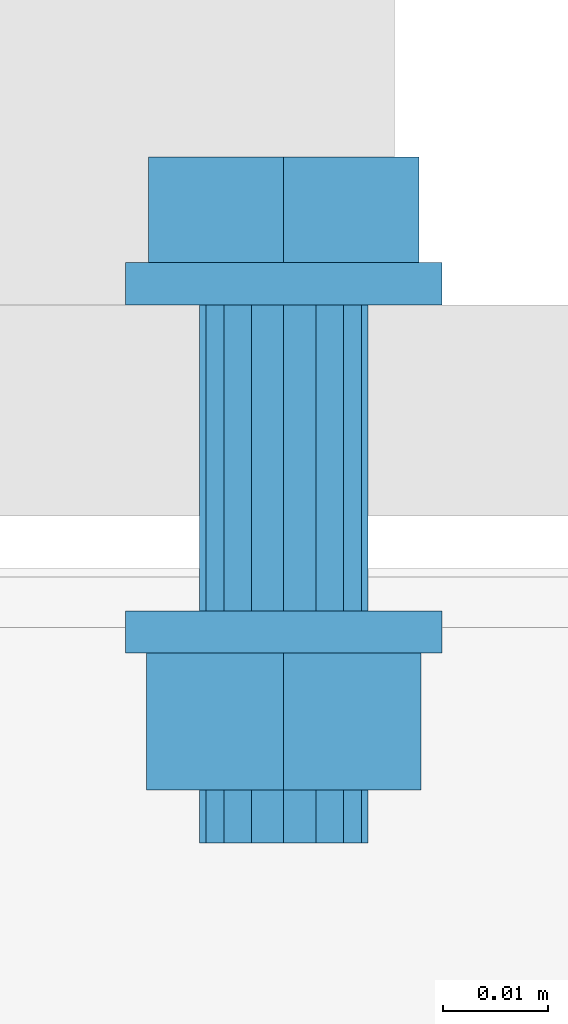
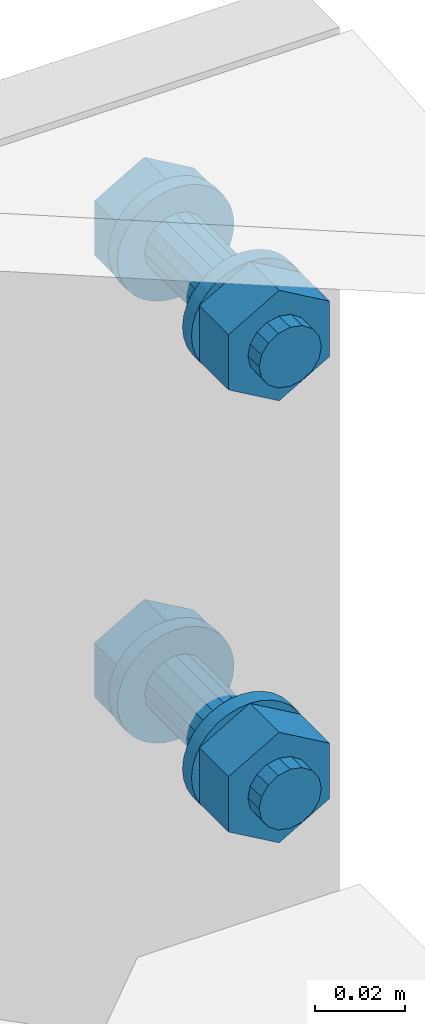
# One storey, part 7 of 21: 2 mechanical fasteners.
"""IFC4X3_ADD2 building model written with IfcOpenShell, lengths in millimetres."""

from ifc_helpers import new_model, entity, si_unit, converted_unit, derived_unit, direction, frame, origin, place, context, project, spatial, faceted_brep, element, save


model = new_model("IFC4X3_ADD2")

# Units and contexts
model_context = context("Model", 3, precision=0.01, world=origin(), true_north=direction((6.123233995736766e-17, 1.0)))
plan_context = context("Plan", 3, precision=0.01, world=origin(), true_north=direction((6.123233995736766e-17, 1.0)))
ifc_project = project(units=[si_unit("LENGTHUNIT", "METRE", prefix="MILLI"), converted_unit("PLANEANGLEUNIT", "DEGREE", entity("IfcPlaneAngleMeasure", 0.017453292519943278), si_unit("PLANEANGLEUNIT", "RADIAN"), dimensions=[0, 0, 0, 0, 0, 0, 0]), si_unit("AREAUNIT", "SQUARE_METRE"), si_unit("VOLUMEUNIT", "CUBIC_METRE"), derived_unit("THERMALTRANSMITTANCEUNIT", [(si_unit("MASSUNIT", "GRAM", prefix="KILO"), 1), (si_unit("THERMODYNAMICTEMPERATUREUNIT", "KELVIN"), -1), (si_unit("TIMEUNIT", "SECOND"), -3)]), derived_unit("USERDEFINED", [(si_unit("MASSUNIT", "GRAM", prefix="KILO"), 1), (si_unit("THERMODYNAMICTEMPERATUREUNIT", "KELVIN"), -1), (si_unit("TIMEUNIT", "SECOND"), -2)]), derived_unit("THERMALRESISTANCEUNIT", [(si_unit("MASSUNIT", "GRAM", prefix="KILO"), -1), (si_unit("TIMEUNIT", "SECOND"), 3), (si_unit("THERMODYNAMICTEMPERATUREUNIT", "KELVIN"), 1)]), si_unit("MASSUNIT", "GRAM", prefix="KILO"), derived_unit("MOMENTOFINERTIAUNIT", [(si_unit("LENGTHUNIT", "METRE"), 4)]), derived_unit("LINEARFORCEUNIT", [(si_unit("MASSUNIT", "GRAM", prefix="KILO"), 1), (si_unit("TIMEUNIT", "SECOND"), -2)]), derived_unit("WARPINGCONSTANTUNIT", [(si_unit("LENGTHUNIT", "METRE"), 6)]), si_unit("PRESSUREUNIT", "PASCAL"), derived_unit("MASSDENSITYUNIT", [(si_unit("MASSUNIT", "GRAM", prefix="KILO"), 1), (si_unit("LENGTHUNIT", "METRE"), -3)]), derived_unit("MODULUSOFELASTICITYUNIT", [(si_unit("MASSUNIT", "GRAM", prefix="KILO"), 1), (si_unit("TIMEUNIT", "SECOND"), -2), (si_unit("LENGTHUNIT", "METRE"), -1)]), derived_unit("THERMALEXPANSIONCOEFFICIENTUNIT", [(si_unit("THERMODYNAMICTEMPERATUREUNIT", "KELVIN"), -1)]), derived_unit("VAPORPERMEABILITYUNIT", [(si_unit("LENGTHUNIT", "METRE"), -1), (si_unit("TIMEUNIT", "SECOND"), 1)]), derived_unit("USERDEFINED", [(si_unit("MASSUNIT", "GRAM", prefix="KILO"), 1), (si_unit("TIMEUNIT", "SECOND"), -3), (si_unit("LENGTHUNIT", "METRE"), 3), (si_unit("ELECTRICCURRENTUNIT", "AMPERE"), -2)]), derived_unit("SPECIFICHEATCAPACITYUNIT", [(si_unit("THERMODYNAMICTEMPERATUREUNIT", "KELVIN"), -1), (si_unit("TIMEUNIT", "SECOND"), -2), (si_unit("LENGTHUNIT", "METRE"), 2)]), derived_unit("THERMALCONDUCTANCEUNIT", [(si_unit("MASSUNIT", "GRAM", prefix="KILO"), 1), (si_unit("THERMODYNAMICTEMPERATUREUNIT", "KELVIN"), -1), (si_unit("TIMEUNIT", "SECOND"), -3), (si_unit("LENGTHUNIT", "METRE"), 1)])], contexts=[model_context, plan_context])

# Site, building, storey
site_placement = place(None, origin())
site = spatial("IfcSite", under=ifc_project, at=site_placement, Name="Default", CompositionType="ELEMENT")
building_placement = place(site_placement, origin())
building = spatial("IfcBuilding", under=site, at=building_placement, Name="Complex structure", CompositionType="ELEMENT")
storey_placement = place(building_placement, frame((0.0, 0.0, 3000.0)))
storey = spatial("IfcBuildingStorey", under=building, at=storey_placement, Name="Level 01", CompositionType="ELEMENT", Elevation=3000.0)

# Mechanical fasteners
mechanical_fastener_1_placement = place(storey_placement, frame((0.0, 0.0, -3000.0)))
element("IfcMechanicalFastener", 1, at=mechanical_fastener_1_placement, inside=storey, ObjectType="Bolt#3", NominalDiameter=16.0, NominalLength=55.0, context=model_context, shape_type="Brep", body=[
    faceted_brep([(-13080.721550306, -1182.866703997, 3943.0), (-13080.721550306, -1186.866703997, 3943.0), (-13081.0097711, -1186.866703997, 3940.07364517), (-13081.0097711, -1182.866703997, 3940.07364517), (-13081.863357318, -1186.866703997, 3937.259748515), (-13081.863357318, -1182.866703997, 3937.259748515), (-13083.249506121, -1186.866703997, 3934.666446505), (-13083.249506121, -1182.866703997, 3934.666446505), (-13085.114948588, -1186.866703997, 3932.393398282), (-13085.114948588, -1182.866703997, 3932.393398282), (-13087.387996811, -1186.866703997, 3930.527955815), (-13087.387996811, -1182.866703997, 3930.527955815), (-13089.98129882, -1186.866703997, 3929.141807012), (-13089.98129882, -1182.866703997, 3929.141807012), (-13092.795195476, -1186.866703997, 3928.288220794), (-13092.795195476, -1182.866703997, 3928.288220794), (-13095.721550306, -1186.866703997, 3928.0), (-13095.721550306, -1182.866703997, 3928.0), (-13098.647905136, -1186.866703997, 3928.288220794), (-13098.647905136, -1182.866703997, 3928.288220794), (-13101.461801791, -1186.866703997, 3929.141807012), (-13101.461801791, -1182.866703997, 3929.141807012), (-13104.055103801, -1186.866703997, 3930.527955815), (-13104.055103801, -1182.866703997, 3930.527955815), (-13106.328152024, -1186.866703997, 3932.393398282), (-13106.328152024, -1182.866703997, 3932.393398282), (-13108.19359449, -1186.866703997, 3934.666446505), (-13108.19359449, -1182.866703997, 3934.666446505), (-13109.579743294, -1186.866703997, 3937.259748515), (-13109.579743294, -1182.866703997, 3937.259748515), (-13110.433329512, -1186.866703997, 3940.07364517), (-13110.433329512, -1182.866703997, 3940.07364517), (-13110.721550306, -1186.866703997, 3943.0), (-13110.721550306, -1182.866703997, 3943.0), (-13110.433329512, -1186.866703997, 3945.92635483), (-13110.433329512, -1182.866703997, 3945.92635483), (-13109.579743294, -1186.866703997, 3948.740251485), (-13109.579743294, -1182.866703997, 3948.740251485), (-13108.19359449, -1186.866703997, 3951.333553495), (-13108.19359449, -1182.866703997, 3951.333553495), (-13106.328152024, -1186.866703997, 3953.606601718), (-13106.328152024, -1182.866703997, 3953.606601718), (-13104.055103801, -1186.866703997, 3955.472044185), (-13104.055103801, -1182.866703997, 3955.472044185), (-13101.461801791, -1186.866703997, 3956.858192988), (-13101.461801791, -1182.866703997, 3956.858192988), (-13098.647905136, -1186.866703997, 3957.711779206), (-13098.647905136, -1182.866703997, 3957.711779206), (-13095.721550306, -1186.866703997, 3958.0), (-13095.721550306, -1182.866703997, 3958.0), (-13092.795195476, -1186.866703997, 3957.711779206), (-13092.795195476, -1182.866703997, 3957.711779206), (-13089.98129882, -1186.866703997, 3956.858192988), (-13089.98129882, -1182.866703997, 3956.858192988), (-13087.387996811, -1186.866703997, 3955.472044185), (-13087.387996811, -1182.866703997, 3955.472044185), (-13085.114948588, -1186.866703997, 3953.606601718), (-13085.114948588, -1182.866703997, 3953.606601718), (-13083.249506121, -1186.866703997, 3951.333553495), (-13083.249506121, -1182.866703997, 3951.333553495), (-13081.863357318, -1186.866703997, 3948.740251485), (-13081.863357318, -1182.866703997, 3948.740251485), (-13081.0097711, -1186.866703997, 3945.92635483), (-13081.0097711, -1182.866703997, 3945.92635483)], [[[0, 1, 2, 3]], [[3, 2, 4, 5]], [[5, 4, 6, 7]], [[7, 6, 8, 9]], [[9, 8, 10, 11]], [[11, 10, 12, 13]], [[13, 12, 14, 15]], [[15, 14, 16, 17]], [[17, 16, 18, 19]], [[19, 18, 20, 21]], [[21, 20, 22, 23]], [[23, 22, 24, 25]], [[25, 24, 26, 27]], [[27, 26, 28, 29]], [[29, 28, 30, 31]], [[31, 30, 32, 33]], [[33, 32, 34, 35]], [[35, 34, 36, 37]], [[37, 36, 38, 39]], [[39, 38, 40, 41]], [[41, 40, 42, 43]], [[43, 42, 44, 45]], [[45, 44, 46, 47]], [[47, 46, 48, 49]], [[49, 48, 50, 51]], [[51, 50, 52, 53]], [[53, 52, 54, 55]], [[55, 54, 56, 57]], [[57, 56, 58, 59]], [[59, 58, 60, 61]], [[61, 60, 62, 63]], [[63, 62, 1, 0]], [[0, 3, 5, 7, 9, 11, 13, 15, 17, 19, 21, 23, 25, 27, 29, 31, 33, 35, 37, 39, 41, 43, 45, 47, 49, 51, 53, 55, 57, 59, 61, 63]], [[1, 62, 60, 58, 56, 54, 52, 50, 48, 46, 44, 42, 40, 38, 36, 34, 32, 30, 28, 26, 24, 22, 20, 18, 16, 14, 12, 10, 8, 6, 4, 2]]]),
    faceted_brep([(-13108.521405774, -1182.866703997, 3935.61), (-13108.521405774, -1172.866703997, 3935.61), (-13095.721550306, -1172.866703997, 3928.22), (-13095.721550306, -1182.866703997, 3928.22), (-13082.921694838, -1172.866703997, 3935.61), (-13082.921694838, -1182.866703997, 3935.61), (-13082.921694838, -1172.866703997, 3950.39), (-13082.921694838, -1182.866703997, 3950.39), (-13095.721550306, -1172.866703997, 3957.78), (-13095.721550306, -1182.866703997, 3957.78), (-13108.521405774, -1172.866703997, 3950.39), (-13108.521405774, -1182.866703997, 3950.39)], [[[0, 1, 2, 3]], [[3, 2, 4, 5]], [[5, 4, 6, 7]], [[7, 6, 8, 9]], [[9, 8, 10, 11]], [[11, 10, 1, 0]], [[4, 2, 1, 10, 8, 6]], [[0, 3, 5, 7, 9, 11]]]),
    faceted_brep([(-13087.721550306, -1186.866703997, 3943.0), (-13087.721550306, -1215.866703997, 3943.0), (-13088.330514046, -1215.866703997, 3939.938532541), (-13088.330514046, -1186.866703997, 3939.938532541), (-13090.064696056, -1215.866703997, 3937.343145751), (-13090.064696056, -1186.866703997, 3937.343145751), (-13092.660082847, -1215.866703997, 3935.60896374), (-13092.660082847, -1186.866703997, 3935.60896374), (-13095.721550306, -1215.866703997, 3935.0), (-13095.721550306, -1186.866703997, 3935.0), (-13098.783017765, -1215.866703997, 3935.60896374), (-13098.783017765, -1186.866703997, 3935.60896374), (-13101.378404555, -1215.866703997, 3937.343145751), (-13101.378404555, -1186.866703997, 3937.343145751), (-13103.112586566, -1215.866703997, 3939.938532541), (-13103.112586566, -1186.866703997, 3939.938532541), (-13103.721550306, -1215.866703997, 3943.0), (-13103.721550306, -1186.866703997, 3943.0), (-13103.112586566, -1215.866703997, 3946.061467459), (-13103.112586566, -1186.866703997, 3946.061467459), (-13101.378404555, -1215.866703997, 3948.656854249), (-13101.378404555, -1186.866703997, 3948.656854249), (-13098.783017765, -1215.866703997, 3950.39103626), (-13098.783017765, -1186.866703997, 3950.39103626), (-13095.721550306, -1215.866703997, 3951.0), (-13095.721550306, -1186.866703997, 3951.0), (-13092.660082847, -1215.866703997, 3950.39103626), (-13092.660082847, -1186.866703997, 3950.39103626), (-13090.064696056, -1215.866703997, 3948.656854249), (-13090.064696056, -1186.866703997, 3948.656854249), (-13088.330514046, -1215.866703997, 3946.061467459), (-13088.330514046, -1186.866703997, 3946.061467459)], [[[0, 1, 2, 3]], [[3, 2, 4, 5]], [[5, 4, 6, 7]], [[7, 6, 8, 9]], [[9, 8, 10, 11]], [[11, 10, 12, 13]], [[13, 12, 14, 15]], [[15, 14, 16, 17]], [[17, 16, 18, 19]], [[19, 18, 20, 21]], [[21, 20, 22, 23]], [[23, 22, 24, 25]], [[25, 24, 26, 27]], [[27, 26, 28, 29]], [[29, 28, 30, 31]], [[31, 30, 1, 0]], [[0, 3, 5, 7, 9, 11, 13, 15, 17, 19, 21, 23, 25, 27, 29, 31]], [[1, 30, 28, 26, 24, 22, 20, 18, 16, 14, 12, 10, 8, 6, 4, 2]]]),
    faceted_brep([(-13080.721550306, -1215.866703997, 3943.0), (-13080.721550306, -1219.866703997, 3943.0), (-13081.0097711, -1219.866703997, 3940.07364517), (-13081.0097711, -1215.866703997, 3940.07364517), (-13081.863357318, -1219.866703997, 3937.259748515), (-13081.863357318, -1215.866703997, 3937.259748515), (-13083.249506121, -1219.866703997, 3934.666446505), (-13083.249506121, -1215.866703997, 3934.666446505), (-13085.114948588, -1219.866703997, 3932.393398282), (-13085.114948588, -1215.866703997, 3932.393398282), (-13087.387996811, -1219.866703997, 3930.527955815), (-13087.387996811, -1215.866703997, 3930.527955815), (-13089.98129882, -1219.866703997, 3929.141807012), (-13089.98129882, -1215.866703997, 3929.141807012), (-13092.795195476, -1219.866703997, 3928.288220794), (-13092.795195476, -1215.866703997, 3928.288220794), (-13095.721550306, -1219.866703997, 3928.0), (-13095.721550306, -1215.866703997, 3928.0), (-13098.647905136, -1219.866703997, 3928.288220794), (-13098.647905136, -1215.866703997, 3928.288220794), (-13101.461801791, -1219.866703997, 3929.141807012), (-13101.461801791, -1215.866703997, 3929.141807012), (-13104.055103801, -1219.866703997, 3930.527955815), (-13104.055103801, -1215.866703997, 3930.527955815), (-13106.328152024, -1219.866703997, 3932.393398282), (-13106.328152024, -1215.866703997, 3932.393398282), (-13108.19359449, -1219.866703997, 3934.666446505), (-13108.19359449, -1215.866703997, 3934.666446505), (-13109.579743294, -1219.866703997, 3937.259748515), (-13109.579743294, -1215.866703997, 3937.259748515), (-13110.433329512, -1219.866703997, 3940.07364517), (-13110.433329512, -1215.866703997, 3940.07364517), (-13110.721550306, -1219.866703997, 3943.0), (-13110.721550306, -1215.866703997, 3943.0), (-13110.433329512, -1219.866703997, 3945.92635483), (-13110.433329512, -1215.866703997, 3945.92635483), (-13109.579743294, -1219.866703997, 3948.740251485), (-13109.579743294, -1215.866703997, 3948.740251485), (-13108.19359449, -1219.866703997, 3951.333553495), (-13108.19359449, -1215.866703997, 3951.333553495), (-13106.328152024, -1219.866703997, 3953.606601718), (-13106.328152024, -1215.866703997, 3953.606601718), (-13104.055103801, -1219.866703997, 3955.472044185), (-13104.055103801, -1215.866703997, 3955.472044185), (-13101.461801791, -1219.866703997, 3956.858192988), (-13101.461801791, -1215.866703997, 3956.858192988), (-13098.647905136, -1219.866703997, 3957.711779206), (-13098.647905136, -1215.866703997, 3957.711779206), (-13095.721550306, -1219.866703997, 3958.0), (-13095.721550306, -1215.866703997, 3958.0), (-13092.795195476, -1219.866703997, 3957.711779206), (-13092.795195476, -1215.866703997, 3957.711779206), (-13089.98129882, -1219.866703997, 3956.858192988), (-13089.98129882, -1215.866703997, 3956.858192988), (-13087.387996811, -1219.866703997, 3955.472044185), (-13087.387996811, -1215.866703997, 3955.472044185), (-13085.114948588, -1219.866703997, 3953.606601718), (-13085.114948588, -1215.866703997, 3953.606601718), (-13083.249506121, -1219.866703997, 3951.333553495), (-13083.249506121, -1215.866703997, 3951.333553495), (-13081.863357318, -1219.866703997, 3948.740251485), (-13081.863357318, -1215.866703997, 3948.740251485), (-13081.0097711, -1219.866703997, 3945.92635483), (-13081.0097711, -1215.866703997, 3945.92635483)], [[[0, 1, 2, 3]], [[3, 2, 4, 5]], [[5, 4, 6, 7]], [[7, 6, 8, 9]], [[9, 8, 10, 11]], [[11, 10, 12, 13]], [[13, 12, 14, 15]], [[15, 14, 16, 17]], [[17, 16, 18, 19]], [[19, 18, 20, 21]], [[21, 20, 22, 23]], [[23, 22, 24, 25]], [[25, 24, 26, 27]], [[27, 26, 28, 29]], [[29, 28, 30, 31]], [[31, 30, 32, 33]], [[33, 32, 34, 35]], [[35, 34, 36, 37]], [[37, 36, 38, 39]], [[39, 38, 40, 41]], [[41, 40, 42, 43]], [[43, 42, 44, 45]], [[45, 44, 46, 47]], [[47, 46, 48, 49]], [[49, 48, 50, 51]], [[51, 50, 52, 53]], [[53, 52, 54, 55]], [[55, 54, 56, 57]], [[57, 56, 58, 59]], [[59, 58, 60, 61]], [[61, 60, 62, 63]], [[63, 62, 1, 0]], [[0, 3, 5, 7, 9, 11, 13, 15, 17, 19, 21, 23, 25, 27, 29, 31, 33, 35, 37, 39, 41, 43, 45, 47, 49, 51, 53, 55, 57, 59, 61, 63]], [[1, 62, 60, 58, 56, 54, 52, 50, 48, 46, 44, 42, 40, 38, 36, 34, 32, 30, 28, 26, 24, 22, 20, 18, 16, 14, 12, 10, 8, 6, 4, 2]]]),
    faceted_brep([(-13108.711931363, -1232.866703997, 3935.5), (-13108.711931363, -1219.866703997, 3935.5), (-13095.721550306, -1219.866703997, 3928.0), (-13095.721550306, -1232.866703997, 3928.0), (-13082.731169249, -1219.866703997, 3935.5), (-13082.731169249, -1232.866703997, 3935.5), (-13082.731169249, -1219.866703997, 3950.5), (-13082.731169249, -1232.866703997, 3950.5), (-13095.721550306, -1219.866703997, 3958.0), (-13095.721550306, -1232.866703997, 3958.0), (-13108.711931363, -1219.866703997, 3950.5), (-13108.711931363, -1232.866703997, 3950.5)], [[[0, 1, 2, 3]], [[3, 2, 4, 5]], [[5, 4, 6, 7]], [[7, 6, 8, 9]], [[9, 8, 10, 11]], [[11, 10, 1, 0]], [[4, 2, 1, 10, 8, 6]], [[0, 3, 5, 7, 9, 11]]]),
    faceted_brep([(-13087.721550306, -1232.866703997, 3943.0), (-13087.721550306, -1237.866703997, 3943.0), (-13088.330514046, -1237.866703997, 3939.938532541), (-13088.330514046, -1232.866703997, 3939.938532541), (-13090.064696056, -1237.866703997, 3937.343145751), (-13090.064696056, -1232.866703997, 3937.343145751), (-13092.660082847, -1237.866703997, 3935.60896374), (-13092.660082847, -1232.866703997, 3935.60896374), (-13095.721550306, -1237.866703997, 3935.0), (-13095.721550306, -1232.866703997, 3935.0), (-13098.783017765, -1237.866703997, 3935.60896374), (-13098.783017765, -1232.866703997, 3935.60896374), (-13101.378404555, -1237.866703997, 3937.343145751), (-13101.378404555, -1232.866703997, 3937.343145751), (-13103.112586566, -1237.866703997, 3939.938532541), (-13103.112586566, -1232.866703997, 3939.938532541), (-13103.721550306, -1237.866703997, 3943.0), (-13103.721550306, -1232.866703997, 3943.0), (-13103.112586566, -1237.866703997, 3946.061467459), (-13103.112586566, -1232.866703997, 3946.061467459), (-13101.378404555, -1237.866703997, 3948.656854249), (-13101.378404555, -1232.866703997, 3948.656854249), (-13098.783017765, -1237.866703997, 3950.39103626), (-13098.783017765, -1232.866703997, 3950.39103626), (-13095.721550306, -1237.866703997, 3951.0), (-13095.721550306, -1232.866703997, 3951.0), (-13092.660082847, -1237.866703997, 3950.39103626), (-13092.660082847, -1232.866703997, 3950.39103626), (-13090.064696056, -1237.866703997, 3948.656854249), (-13090.064696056, -1232.866703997, 3948.656854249), (-13088.330514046, -1237.866703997, 3946.061467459), (-13088.330514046, -1232.866703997, 3946.061467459)], [[[0, 1, 2, 3]], [[3, 2, 4, 5]], [[5, 4, 6, 7]], [[7, 6, 8, 9]], [[9, 8, 10, 11]], [[11, 10, 12, 13]], [[13, 12, 14, 15]], [[15, 14, 16, 17]], [[17, 16, 18, 19]], [[19, 18, 20, 21]], [[21, 20, 22, 23]], [[23, 22, 24, 25]], [[25, 24, 26, 27]], [[27, 26, 28, 29]], [[29, 28, 30, 31]], [[31, 30, 1, 0]], [[0, 3, 5, 7, 9, 11, 13, 15, 17, 19, 21, 23, 25, 27, 29, 31]], [[1, 30, 28, 26, 24, 22, 20, 18, 16, 14, 12, 10, 8, 6, 4, 2]]]),
])
mechanical_fastener_2_placement = place(storey_placement, frame((0.0, 0.0, -3000.0)))
element("IfcMechanicalFastener", 2, at=mechanical_fastener_2_placement, inside=storey, ObjectType="Bolt#4", NominalDiameter=16.0, NominalLength=55.0, context=model_context, shape_type="Brep", body=[
    faceted_brep([(-13080.721550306, -1182.866703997, 3823.0), (-13080.721550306, -1186.866703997, 3823.0), (-13081.0097711, -1186.866703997, 3820.07364517), (-13081.0097711, -1182.866703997, 3820.07364517), (-13081.863357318, -1186.866703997, 3817.259748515), (-13081.863357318, -1182.866703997, 3817.259748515), (-13083.249506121, -1186.866703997, 3814.666446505), (-13083.249506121, -1182.866703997, 3814.666446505), (-13085.114948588, -1186.866703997, 3812.393398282), (-13085.114948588, -1182.866703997, 3812.393398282), (-13087.387996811, -1186.866703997, 3810.527955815), (-13087.387996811, -1182.866703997, 3810.527955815), (-13089.98129882, -1186.866703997, 3809.141807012), (-13089.98129882, -1182.866703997, 3809.141807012), (-13092.795195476, -1186.866703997, 3808.288220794), (-13092.795195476, -1182.866703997, 3808.288220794), (-13095.721550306, -1186.866703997, 3808.0), (-13095.721550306, -1182.866703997, 3808.0), (-13098.647905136, -1186.866703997, 3808.288220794), (-13098.647905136, -1182.866703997, 3808.288220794), (-13101.461801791, -1186.866703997, 3809.141807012), (-13101.461801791, -1182.866703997, 3809.141807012), (-13104.055103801, -1186.866703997, 3810.527955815), (-13104.055103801, -1182.866703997, 3810.527955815), (-13106.328152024, -1186.866703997, 3812.393398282), (-13106.328152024, -1182.866703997, 3812.393398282), (-13108.19359449, -1186.866703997, 3814.666446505), (-13108.19359449, -1182.866703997, 3814.666446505), (-13109.579743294, -1186.866703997, 3817.259748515), (-13109.579743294, -1182.866703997, 3817.259748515), (-13110.433329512, -1186.866703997, 3820.07364517), (-13110.433329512, -1182.866703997, 3820.07364517), (-13110.721550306, -1186.866703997, 3823.0), (-13110.721550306, -1182.866703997, 3823.0), (-13110.433329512, -1186.866703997, 3825.92635483), (-13110.433329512, -1182.866703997, 3825.92635483), (-13109.579743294, -1186.866703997, 3828.740251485), (-13109.579743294, -1182.866703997, 3828.740251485), (-13108.19359449, -1186.866703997, 3831.333553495), (-13108.19359449, -1182.866703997, 3831.333553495), (-13106.328152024, -1186.866703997, 3833.606601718), (-13106.328152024, -1182.866703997, 3833.606601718), (-13104.055103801, -1186.866703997, 3835.472044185), (-13104.055103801, -1182.866703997, 3835.472044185), (-13101.461801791, -1186.866703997, 3836.858192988), (-13101.461801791, -1182.866703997, 3836.858192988), (-13098.647905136, -1186.866703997, 3837.711779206), (-13098.647905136, -1182.866703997, 3837.711779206), (-13095.721550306, -1186.866703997, 3838.0), (-13095.721550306, -1182.866703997, 3838.0), (-13092.795195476, -1186.866703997, 3837.711779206), (-13092.795195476, -1182.866703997, 3837.711779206), (-13089.98129882, -1186.866703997, 3836.858192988), (-13089.98129882, -1182.866703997, 3836.858192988), (-13087.387996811, -1186.866703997, 3835.472044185), (-13087.387996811, -1182.866703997, 3835.472044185), (-13085.114948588, -1186.866703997, 3833.606601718), (-13085.114948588, -1182.866703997, 3833.606601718), (-13083.249506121, -1186.866703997, 3831.333553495), (-13083.249506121, -1182.866703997, 3831.333553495), (-13081.863357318, -1186.866703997, 3828.740251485), (-13081.863357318, -1182.866703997, 3828.740251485), (-13081.0097711, -1186.866703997, 3825.92635483), (-13081.0097711, -1182.866703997, 3825.92635483)], [[[0, 1, 2, 3]], [[3, 2, 4, 5]], [[5, 4, 6, 7]], [[7, 6, 8, 9]], [[9, 8, 10, 11]], [[11, 10, 12, 13]], [[13, 12, 14, 15]], [[15, 14, 16, 17]], [[17, 16, 18, 19]], [[19, 18, 20, 21]], [[21, 20, 22, 23]], [[23, 22, 24, 25]], [[25, 24, 26, 27]], [[27, 26, 28, 29]], [[29, 28, 30, 31]], [[31, 30, 32, 33]], [[33, 32, 34, 35]], [[35, 34, 36, 37]], [[37, 36, 38, 39]], [[39, 38, 40, 41]], [[41, 40, 42, 43]], [[43, 42, 44, 45]], [[45, 44, 46, 47]], [[47, 46, 48, 49]], [[49, 48, 50, 51]], [[51, 50, 52, 53]], [[53, 52, 54, 55]], [[55, 54, 56, 57]], [[57, 56, 58, 59]], [[59, 58, 60, 61]], [[61, 60, 62, 63]], [[63, 62, 1, 0]], [[0, 3, 5, 7, 9, 11, 13, 15, 17, 19, 21, 23, 25, 27, 29, 31, 33, 35, 37, 39, 41, 43, 45, 47, 49, 51, 53, 55, 57, 59, 61, 63]], [[1, 62, 60, 58, 56, 54, 52, 50, 48, 46, 44, 42, 40, 38, 36, 34, 32, 30, 28, 26, 24, 22, 20, 18, 16, 14, 12, 10, 8, 6, 4, 2]]]),
    faceted_brep([(-13108.521405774, -1182.866703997, 3815.61), (-13108.521405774, -1172.866703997, 3815.61), (-13095.721550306, -1172.866703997, 3808.22), (-13095.721550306, -1182.866703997, 3808.22), (-13082.921694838, -1172.866703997, 3815.61), (-13082.921694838, -1182.866703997, 3815.61), (-13082.921694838, -1172.866703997, 3830.39), (-13082.921694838, -1182.866703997, 3830.39), (-13095.721550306, -1172.866703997, 3837.78), (-13095.721550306, -1182.866703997, 3837.78), (-13108.521405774, -1172.866703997, 3830.39), (-13108.521405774, -1182.866703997, 3830.39)], [[[0, 1, 2, 3]], [[3, 2, 4, 5]], [[5, 4, 6, 7]], [[7, 6, 8, 9]], [[9, 8, 10, 11]], [[11, 10, 1, 0]], [[4, 2, 1, 10, 8, 6]], [[0, 3, 5, 7, 9, 11]]]),
    faceted_brep([(-13087.721550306, -1186.866703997, 3823.0), (-13087.721550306, -1215.866703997, 3823.0), (-13088.330514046, -1215.866703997, 3819.938532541), (-13088.330514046, -1186.866703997, 3819.938532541), (-13090.064696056, -1215.866703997, 3817.343145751), (-13090.064696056, -1186.866703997, 3817.343145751), (-13092.660082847, -1215.866703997, 3815.60896374), (-13092.660082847, -1186.866703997, 3815.60896374), (-13095.721550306, -1215.866703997, 3815.0), (-13095.721550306, -1186.866703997, 3815.0), (-13098.783017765, -1215.866703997, 3815.60896374), (-13098.783017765, -1186.866703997, 3815.60896374), (-13101.378404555, -1215.866703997, 3817.343145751), (-13101.378404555, -1186.866703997, 3817.343145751), (-13103.112586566, -1215.866703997, 3819.938532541), (-13103.112586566, -1186.866703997, 3819.938532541), (-13103.721550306, -1215.866703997, 3823.0), (-13103.721550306, -1186.866703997, 3823.0), (-13103.112586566, -1215.866703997, 3826.061467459), (-13103.112586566, -1186.866703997, 3826.061467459), (-13101.378404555, -1215.866703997, 3828.656854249), (-13101.378404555, -1186.866703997, 3828.656854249), (-13098.783017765, -1215.866703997, 3830.39103626), (-13098.783017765, -1186.866703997, 3830.39103626), (-13095.721550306, -1215.866703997, 3831.0), (-13095.721550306, -1186.866703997, 3831.0), (-13092.660082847, -1215.866703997, 3830.39103626), (-13092.660082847, -1186.866703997, 3830.39103626), (-13090.064696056, -1215.866703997, 3828.656854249), (-13090.064696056, -1186.866703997, 3828.656854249), (-13088.330514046, -1215.866703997, 3826.061467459), (-13088.330514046, -1186.866703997, 3826.061467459)], [[[0, 1, 2, 3]], [[3, 2, 4, 5]], [[5, 4, 6, 7]], [[7, 6, 8, 9]], [[9, 8, 10, 11]], [[11, 10, 12, 13]], [[13, 12, 14, 15]], [[15, 14, 16, 17]], [[17, 16, 18, 19]], [[19, 18, 20, 21]], [[21, 20, 22, 23]], [[23, 22, 24, 25]], [[25, 24, 26, 27]], [[27, 26, 28, 29]], [[29, 28, 30, 31]], [[31, 30, 1, 0]], [[0, 3, 5, 7, 9, 11, 13, 15, 17, 19, 21, 23, 25, 27, 29, 31]], [[1, 30, 28, 26, 24, 22, 20, 18, 16, 14, 12, 10, 8, 6, 4, 2]]]),
    faceted_brep([(-13080.721550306, -1215.866703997, 3823.0), (-13080.721550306, -1219.866703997, 3823.0), (-13081.0097711, -1219.866703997, 3820.07364517), (-13081.0097711, -1215.866703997, 3820.07364517), (-13081.863357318, -1219.866703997, 3817.259748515), (-13081.863357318, -1215.866703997, 3817.259748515), (-13083.249506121, -1219.866703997, 3814.666446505), (-13083.249506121, -1215.866703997, 3814.666446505), (-13085.114948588, -1219.866703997, 3812.393398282), (-13085.114948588, -1215.866703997, 3812.393398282), (-13087.387996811, -1219.866703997, 3810.527955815), (-13087.387996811, -1215.866703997, 3810.527955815), (-13089.98129882, -1219.866703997, 3809.141807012), (-13089.98129882, -1215.866703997, 3809.141807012), (-13092.795195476, -1219.866703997, 3808.288220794), (-13092.795195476, -1215.866703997, 3808.288220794), (-13095.721550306, -1219.866703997, 3808.0), (-13095.721550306, -1215.866703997, 3808.0), (-13098.647905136, -1219.866703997, 3808.288220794), (-13098.647905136, -1215.866703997, 3808.288220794), (-13101.461801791, -1219.866703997, 3809.141807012), (-13101.461801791, -1215.866703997, 3809.141807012), (-13104.055103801, -1219.866703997, 3810.527955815), (-13104.055103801, -1215.866703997, 3810.527955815), (-13106.328152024, -1219.866703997, 3812.393398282), (-13106.328152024, -1215.866703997, 3812.393398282), (-13108.19359449, -1219.866703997, 3814.666446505), (-13108.19359449, -1215.866703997, 3814.666446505), (-13109.579743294, -1219.866703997, 3817.259748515), (-13109.579743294, -1215.866703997, 3817.259748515), (-13110.433329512, -1219.866703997, 3820.07364517), (-13110.433329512, -1215.866703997, 3820.07364517), (-13110.721550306, -1219.866703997, 3823.0), (-13110.721550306, -1215.866703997, 3823.0), (-13110.433329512, -1219.866703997, 3825.92635483), (-13110.433329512, -1215.866703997, 3825.92635483), (-13109.579743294, -1219.866703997, 3828.740251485), (-13109.579743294, -1215.866703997, 3828.740251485), (-13108.19359449, -1219.866703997, 3831.333553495), (-13108.19359449, -1215.866703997, 3831.333553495), (-13106.328152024, -1219.866703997, 3833.606601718), (-13106.328152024, -1215.866703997, 3833.606601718), (-13104.055103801, -1219.866703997, 3835.472044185), (-13104.055103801, -1215.866703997, 3835.472044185), (-13101.461801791, -1219.866703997, 3836.858192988), (-13101.461801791, -1215.866703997, 3836.858192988), (-13098.647905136, -1219.866703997, 3837.711779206), (-13098.647905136, -1215.866703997, 3837.711779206), (-13095.721550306, -1219.866703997, 3838.0), (-13095.721550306, -1215.866703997, 3838.0), (-13092.795195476, -1219.866703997, 3837.711779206), (-13092.795195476, -1215.866703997, 3837.711779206), (-13089.98129882, -1219.866703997, 3836.858192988), (-13089.98129882, -1215.866703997, 3836.858192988), (-13087.387996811, -1219.866703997, 3835.472044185), (-13087.387996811, -1215.866703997, 3835.472044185), (-13085.114948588, -1219.866703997, 3833.606601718), (-13085.114948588, -1215.866703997, 3833.606601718), (-13083.249506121, -1219.866703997, 3831.333553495), (-13083.249506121, -1215.866703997, 3831.333553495), (-13081.863357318, -1219.866703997, 3828.740251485), (-13081.863357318, -1215.866703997, 3828.740251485), (-13081.0097711, -1219.866703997, 3825.92635483), (-13081.0097711, -1215.866703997, 3825.92635483)], [[[0, 1, 2, 3]], [[3, 2, 4, 5]], [[5, 4, 6, 7]], [[7, 6, 8, 9]], [[9, 8, 10, 11]], [[11, 10, 12, 13]], [[13, 12, 14, 15]], [[15, 14, 16, 17]], [[17, 16, 18, 19]], [[19, 18, 20, 21]], [[21, 20, 22, 23]], [[23, 22, 24, 25]], [[25, 24, 26, 27]], [[27, 26, 28, 29]], [[29, 28, 30, 31]], [[31, 30, 32, 33]], [[33, 32, 34, 35]], [[35, 34, 36, 37]], [[37, 36, 38, 39]], [[39, 38, 40, 41]], [[41, 40, 42, 43]], [[43, 42, 44, 45]], [[45, 44, 46, 47]], [[47, 46, 48, 49]], [[49, 48, 50, 51]], [[51, 50, 52, 53]], [[53, 52, 54, 55]], [[55, 54, 56, 57]], [[57, 56, 58, 59]], [[59, 58, 60, 61]], [[61, 60, 62, 63]], [[63, 62, 1, 0]], [[0, 3, 5, 7, 9, 11, 13, 15, 17, 19, 21, 23, 25, 27, 29, 31, 33, 35, 37, 39, 41, 43, 45, 47, 49, 51, 53, 55, 57, 59, 61, 63]], [[1, 62, 60, 58, 56, 54, 52, 50, 48, 46, 44, 42, 40, 38, 36, 34, 32, 30, 28, 26, 24, 22, 20, 18, 16, 14, 12, 10, 8, 6, 4, 2]]]),
    faceted_brep([(-13108.711931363, -1232.866703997, 3815.5), (-13108.711931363, -1219.866703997, 3815.5), (-13095.721550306, -1219.866703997, 3808.0), (-13095.721550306, -1232.866703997, 3808.0), (-13082.731169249, -1219.866703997, 3815.5), (-13082.731169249, -1232.866703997, 3815.5), (-13082.731169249, -1219.866703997, 3830.5), (-13082.731169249, -1232.866703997, 3830.5), (-13095.721550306, -1219.866703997, 3838.0), (-13095.721550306, -1232.866703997, 3838.0), (-13108.711931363, -1219.866703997, 3830.5), (-13108.711931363, -1232.866703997, 3830.5)], [[[0, 1, 2, 3]], [[3, 2, 4, 5]], [[5, 4, 6, 7]], [[7, 6, 8, 9]], [[9, 8, 10, 11]], [[11, 10, 1, 0]], [[4, 2, 1, 10, 8, 6]], [[0, 3, 5, 7, 9, 11]]]),
    faceted_brep([(-13087.721550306, -1232.866703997, 3823.0), (-13087.721550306, -1237.866703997, 3823.0), (-13088.330514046, -1237.866703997, 3819.938532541), (-13088.330514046, -1232.866703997, 3819.938532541), (-13090.064696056, -1237.866703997, 3817.343145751), (-13090.064696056, -1232.866703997, 3817.343145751), (-13092.660082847, -1237.866703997, 3815.60896374), (-13092.660082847, -1232.866703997, 3815.60896374), (-13095.721550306, -1237.866703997, 3815.0), (-13095.721550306, -1232.866703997, 3815.0), (-13098.783017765, -1237.866703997, 3815.60896374), (-13098.783017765, -1232.866703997, 3815.60896374), (-13101.378404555, -1237.866703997, 3817.343145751), (-13101.378404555, -1232.866703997, 3817.343145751), (-13103.112586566, -1237.866703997, 3819.938532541), (-13103.112586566, -1232.866703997, 3819.938532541), (-13103.721550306, -1237.866703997, 3823.0), (-13103.721550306, -1232.866703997, 3823.0), (-13103.112586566, -1237.866703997, 3826.061467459), (-13103.112586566, -1232.866703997, 3826.061467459), (-13101.378404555, -1237.866703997, 3828.656854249), (-13101.378404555, -1232.866703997, 3828.656854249), (-13098.783017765, -1237.866703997, 3830.39103626), (-13098.783017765, -1232.866703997, 3830.39103626), (-13095.721550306, -1237.866703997, 3831.0), (-13095.721550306, -1232.866703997, 3831.0), (-13092.660082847, -1237.866703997, 3830.39103626), (-13092.660082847, -1232.866703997, 3830.39103626), (-13090.064696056, -1237.866703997, 3828.656854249), (-13090.064696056, -1232.866703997, 3828.656854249), (-13088.330514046, -1237.866703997, 3826.061467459), (-13088.330514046, -1232.866703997, 3826.061467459)], [[[0, 1, 2, 3]], [[3, 2, 4, 5]], [[5, 4, 6, 7]], [[7, 6, 8, 9]], [[9, 8, 10, 11]], [[11, 10, 12, 13]], [[13, 12, 14, 15]], [[15, 14, 16, 17]], [[17, 16, 18, 19]], [[19, 18, 20, 21]], [[21, 20, 22, 23]], [[23, 22, 24, 25]], [[25, 24, 26, 27]], [[27, 26, 28, 29]], [[29, 28, 30, 31]], [[31, 30, 1, 0]], [[0, 3, 5, 7, 9, 11, 13, 15, 17, 19, 21, 23, 25, 27, 29, 31]], [[1, 30, 28, 26, 24, 22, 20, 18, 16, 14, 12, 10, 8, 6, 4, 2]]]),
])

save(model, "model.ifc")
